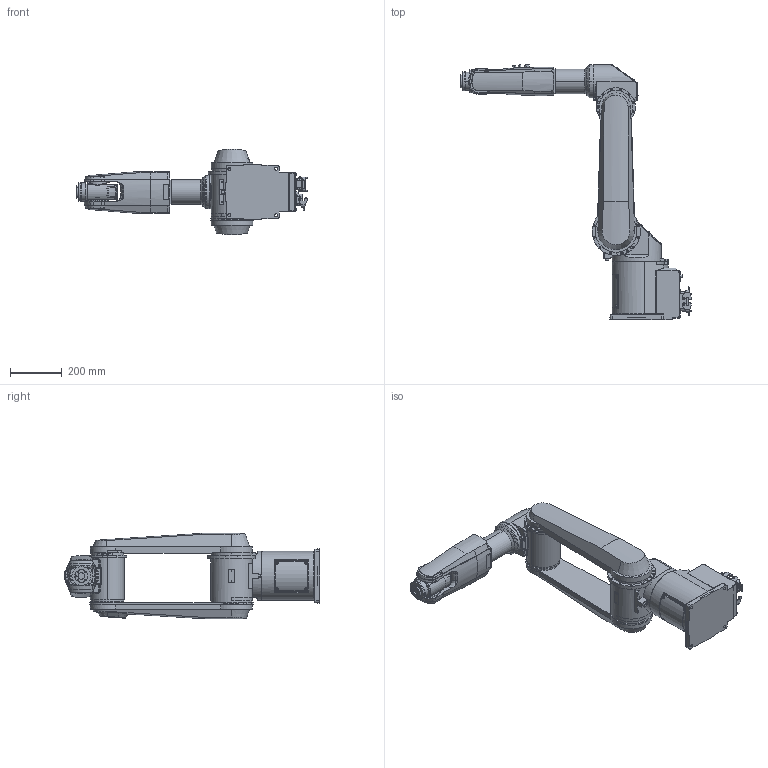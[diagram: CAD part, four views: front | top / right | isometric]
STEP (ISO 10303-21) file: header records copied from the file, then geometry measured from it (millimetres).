
FILE_DESCRIPTION((''),'2;1');
FILE_NAME('TV1000H_OUTLINE_ASM','2018-06-21T',('kosato.yotaro'),(''),'PRO/ENGINEER BY PARAMETRIC TECHNOLOGY CORPORATION, 2015030','PRO/ENGINEER BY PARAMETRIC TECHNOLOGY CORPORATION, 2015030','');
FILE_SCHEMA(('CONFIG_CONTROL_DESIGN'));
Length unit declared in the file: millimetre
Products named in the file (8): TV800_BASE_OUTLINE; TV800_BASE_TURN_OUTLINE; TV1000_1ST_ARM_OUTLINE; TV800_2ND_ARM_1_OUTLINE; TV1000_2ND_ARM_2_OUTLINE; TV800_3RD_ARM_OUTLINE; TV1000H_TOOL_FLANGE_OUTLINE; TV1000H_OUTLINE_ASM
Assembly tree (7 placements, depth 2):
  TV1000H_OUTLINE_ASM
    TV800_BASE_OUTLINE
    TV800_BASE_TURN_OUTLINE
    TV1000_1ST_ARM_OUTLINE
    TV800_2ND_ARM_1_OUTLINE
    TV1000_2ND_ARM_2_OUTLINE
    TV800_3RD_ARM_OUTLINE
    TV1000H_TOOL_FLANGE_OUTLINE
Bounding box: 890.9 x 985.52 x 330 mm (x, y, z)
Volume: 32722474 mm3; surface area: 1839781.4 mm2
Topology: 35 solids, 76 shells, 2651 faces, 6656 edges, 4230 vertices
Faces by surface type: plane 1201, cylinder 999, cone 192, bspline 106, torus 93, sphere 50, extrusion 10
Entity records: 86157 total; most frequent: CARTESIAN_POINT 22307, DIRECTION 13556, ORIENTED_EDGE 13004, EDGE_CURVE 6506, AXIS2_PLACEMENT_3D 5053, VERTEX_POINT 4230, VECTOR 3450, LINE 3440
